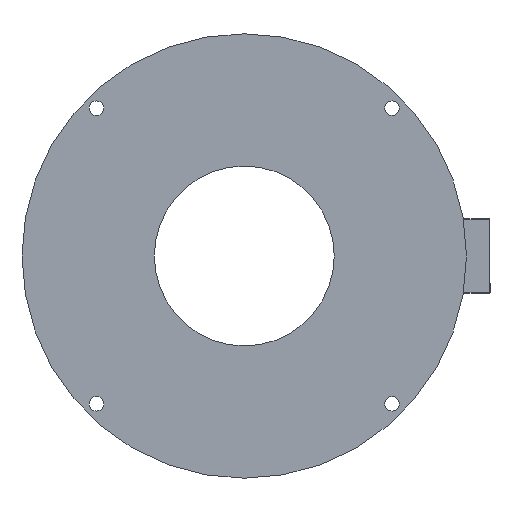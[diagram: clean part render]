
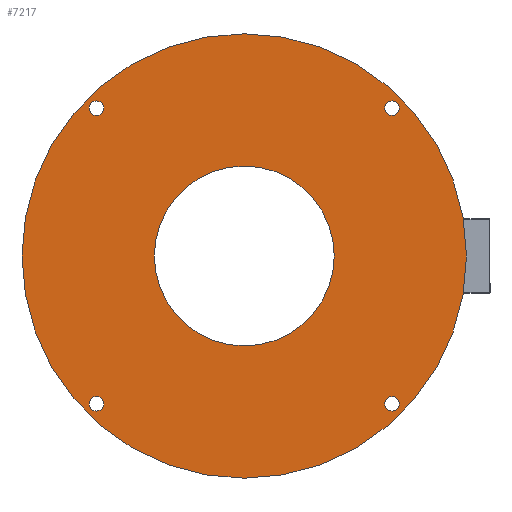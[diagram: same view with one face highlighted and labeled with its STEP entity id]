
A CAD part, left-side view. The second image highlights one B-rep face of the part: STEP entity #7217.
In plain terms, the highlighted planar face has unit normal (-1, 0, 0).
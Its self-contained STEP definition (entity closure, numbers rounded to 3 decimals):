
#177=FACE_BOUND('',#956,.T.);
#178=FACE_BOUND('',#957,.T.);
#179=FACE_BOUND('',#958,.T.);
#180=FACE_BOUND('',#959,.T.);
#181=FACE_BOUND('',#960,.T.);
#228=PLANE('',#8127);
#502=FACE_OUTER_BOUND('',#955,.T.);
#955=EDGE_LOOP('',(#5583,#5584));
#956=EDGE_LOOP('',(#5585));
#957=EDGE_LOOP('',(#5586));
#958=EDGE_LOOP('',(#5587));
#959=EDGE_LOOP('',(#5588));
#960=EDGE_LOOP('',(#5589,#5590));
#2324=CIRCLE('',#8060,34.);
#2325=CIRCLE('',#8061,34.);
#2326=CIRCLE('',#8063,84.);
#2327=CIRCLE('',#8064,84.);
#2370=CIRCLE('',#8119,2.75);
#2371=CIRCLE('',#8121,2.75);
#2372=CIRCLE('',#8123,2.75);
#2373=CIRCLE('',#8125,2.75);
#2974=VERTEX_POINT('',#12291);
#2975=VERTEX_POINT('',#12292);
#2976=VERTEX_POINT('',#12297);
#2977=VERTEX_POINT('',#12298);
#3014=VERTEX_POINT('',#12464);
#3015=VERTEX_POINT('',#12468);
#3016=VERTEX_POINT('',#12472);
#3017=VERTEX_POINT('',#12476);
#3855=EDGE_CURVE('',#2974,#2975,#2324,.T.);
#3857=EDGE_CURVE('',#2975,#2974,#2325,.T.);
#3858=EDGE_CURVE('',#2976,#2977,#2326,.T.);
#3859=EDGE_CURVE('',#2977,#2976,#2327,.T.);
#3916=EDGE_CURVE('',#3014,#3014,#2370,.T.);
#3918=EDGE_CURVE('',#3015,#3015,#2371,.T.);
#3920=EDGE_CURVE('',#3016,#3016,#2372,.T.);
#3922=EDGE_CURVE('',#3017,#3017,#2373,.T.);
#5583=ORIENTED_EDGE('',*,*,#3858,.T.);
#5584=ORIENTED_EDGE('',*,*,#3859,.T.);
#5585=ORIENTED_EDGE('',*,*,#3922,.T.);
#5586=ORIENTED_EDGE('',*,*,#3920,.T.);
#5587=ORIENTED_EDGE('',*,*,#3918,.T.);
#5588=ORIENTED_EDGE('',*,*,#3916,.T.);
#5589=ORIENTED_EDGE('',*,*,#3855,.F.);
#5590=ORIENTED_EDGE('',*,*,#3857,.F.);
#7217=ADVANCED_FACE('',(#502,#177,#178,#179,#180,#181),#228,.T.);
#8060=AXIS2_PLACEMENT_3D('',#12293,#9925,#9926);
#8061=AXIS2_PLACEMENT_3D('',#12295,#9928,#9929);
#8063=AXIS2_PLACEMENT_3D('',#12299,#9932,#9933);
#8064=AXIS2_PLACEMENT_3D('',#12300,#9934,#9935);
#8119=AXIS2_PLACEMENT_3D('',#12466,#10053,#10054);
#8121=AXIS2_PLACEMENT_3D('',#12470,#10058,#10059);
#8123=AXIS2_PLACEMENT_3D('',#12474,#10063,#10064);
#8125=AXIS2_PLACEMENT_3D('',#12478,#10068,#10069);
#8127=AXIS2_PLACEMENT_3D('',#12480,#10072,#10073);
#9925=DIRECTION('center_axis',(-1.,0.,0.));
#9926=DIRECTION('ref_axis',(0.,1.,0.));
#9928=DIRECTION('center_axis',(-1.,0.,0.));
#9929=DIRECTION('ref_axis',(0.,1.,0.));
#9932=DIRECTION('center_axis',(-1.,0.,0.));
#9933=DIRECTION('ref_axis',(0.,1.,0.));
#9934=DIRECTION('center_axis',(-1.,0.,0.));
#9935=DIRECTION('ref_axis',(0.,1.,0.));
#10053=DIRECTION('center_axis',(1.,0.,0.));
#10054=DIRECTION('ref_axis',(0.,0.,
-1.));
#10058=DIRECTION('center_axis',(1.,0.,0.));
#10059=DIRECTION('ref_axis',(0.,0.,
-1.));
#10063=DIRECTION('center_axis',(1.,0.,0.));
#10064=DIRECTION('ref_axis',(0.,0.,
-1.));
#10068=DIRECTION('center_axis',(1.,0.,0.));
#10069=DIRECTION('ref_axis',(0.,0.,
-1.));
#10072=DIRECTION('center_axis',(-1.,0.,0.));
#10073=DIRECTION('ref_axis',(0.,0.,
1.));
#12291=CARTESIAN_POINT('',(-41.6,34.,0.));
#12292=CARTESIAN_POINT('',(-41.6,-34.,0.));
#12293=CARTESIAN_POINT('Origin',(-41.6,0.,0.));
#12295=CARTESIAN_POINT('Origin',(-41.6,0.,0.));
#12297=CARTESIAN_POINT('',(-41.6,84.,0.));
#12298=CARTESIAN_POINT('',(-41.6,-84.,0.));
#12299=CARTESIAN_POINT('Origin',(-41.6,0.,0.));
#12300=CARTESIAN_POINT('Origin',(-41.6,0.,0.));
#12464=CARTESIAN_POINT('',(-41.6,55.861,-53.111));
#12466=CARTESIAN_POINT('Origin',(-41.6,55.861,-55.861));
#12468=CARTESIAN_POINT('',(-41.6,-55.861,58.611));
#12470=CARTESIAN_POINT('Origin',(-41.6,-55.861,55.861));
#12472=CARTESIAN_POINT('',(-41.6,55.861,58.611));
#12474=CARTESIAN_POINT('Origin',(-41.6,55.861,55.861));
#12476=CARTESIAN_POINT('',(-41.6,-55.861,-53.111));
#12478=CARTESIAN_POINT('Origin',(-41.6,-55.861,-55.861));
#12480=CARTESIAN_POINT('Origin',(-41.6,59.,0.));
